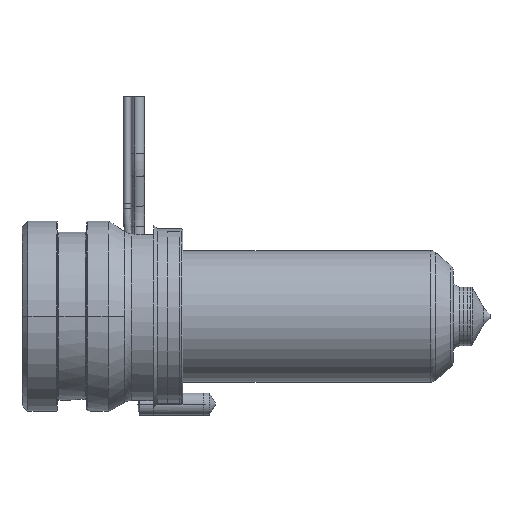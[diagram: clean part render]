
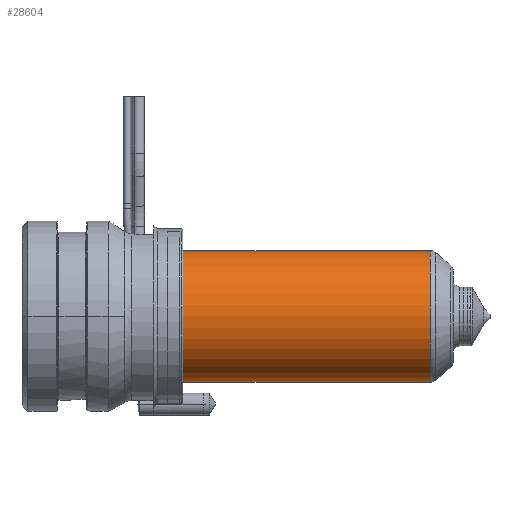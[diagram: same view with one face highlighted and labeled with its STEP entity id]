
A CAD part, left-side view. The second image highlights one B-rep face of the part: STEP entity #28604.
In plain terms, the highlighted cylindrical face has radius 9 mm (diameter 18 mm), a partial arc.
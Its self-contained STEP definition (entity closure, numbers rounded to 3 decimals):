
#28002=CARTESIAN_POINT('',(0.,-55.836,0.));
#28003=DIRECTION('',(0.,-1.,0.));
#28004=DIRECTION('',(0.,0.,1.));
#28005=AXIS2_PLACEMENT_3D('',#28002,#28003,#28004);
#28007=CARTESIAN_POINT('',(0.,-22.,0.));
#28008=DIRECTION('',(0.,1.,0.));
#28009=DIRECTION('',(0.,0.,-1.));
#28010=AXIS2_PLACEMENT_3D('',#28007,#28008,#28009);
#28012=DIRECTION('',(0.,1.,0.));
#28013=VECTOR('',#28012,33.836);
#28014=CARTESIAN_POINT('',(0.,-55.836,9.));
#28015=LINE('',#28014,#28013);
#28021=DIRECTION('',(0.,1.,0.));
#28022=VECTOR('',#28021,33.836);
#28023=CARTESIAN_POINT('',(0.,-55.836,-9.));
#28024=LINE('',#28023,#28022);
#28147=CARTESIAN_POINT('',(0.,-55.836,9.));
#28148=CARTESIAN_POINT('',(0.,-22.,9.));
#28149=VERTEX_POINT('',#28147);
#28150=VERTEX_POINT('',#28148);
#28151=CARTESIAN_POINT('',(0.,-55.836,-9.));
#28152=CARTESIAN_POINT('',(0.,-22.,-9.));
#28153=VERTEX_POINT('',#28151);
#28154=VERTEX_POINT('',#28152);
#28590=CARTESIAN_POINT('',(0.,-15.7,0.));
#28591=DIRECTION('',(0.,-1.,0.));
#28592=DIRECTION('',(0.,0.,1.));
#28593=AXIS2_PLACEMENT_3D('',#28590,#28591,#28592);
#28594=CYLINDRICAL_SURFACE('',#28593,9.);
#28596=ORIENTED_EDGE('',*,*,#28595,.F.);
#28597=ORIENTED_EDGE('',*,*,#28578,.T.);
#28599=ORIENTED_EDGE('',*,*,#28598,.T.);
#28601=ORIENTED_EDGE('',*,*,#28600,.T.);
#28602=EDGE_LOOP('',(#28596,#28597,#28599,#28601));
#28603=FACE_OUTER_BOUND('',#28602,.F.);
#28604=ADVANCED_FACE('',(#28603),#28594,.T.);
#28006=CIRCLE('',#28005,9.);
#28011=CIRCLE('',#28010,9.);
#28578=EDGE_CURVE('',#28149,#28153,#28006,.T.);
#28595=EDGE_CURVE('',#28149,#28150,#28015,.T.);
#28598=EDGE_CURVE('',#28153,#28154,#28024,.T.);
#28600=EDGE_CURVE('',#28154,#28150,#28011,.T.);
